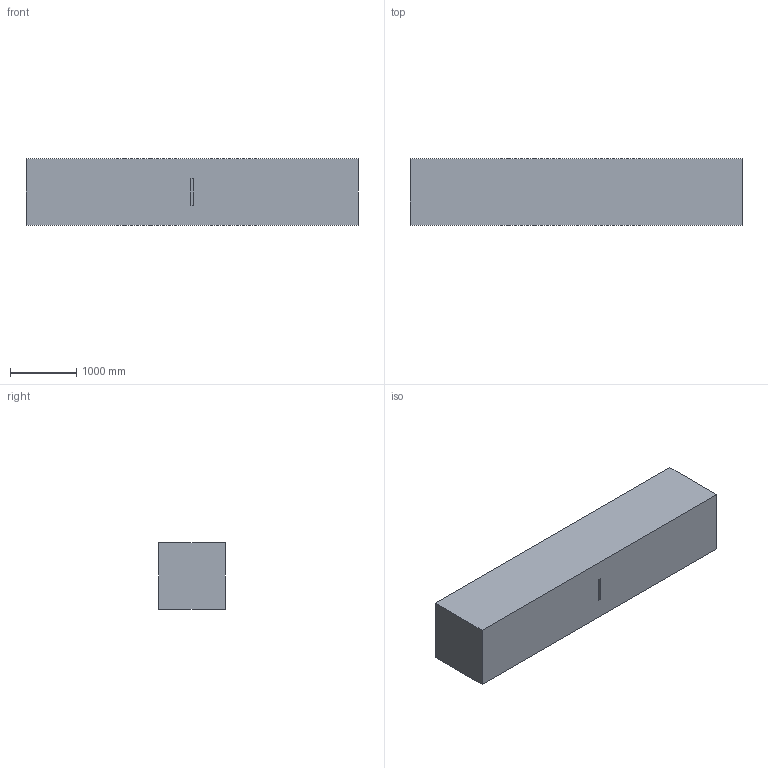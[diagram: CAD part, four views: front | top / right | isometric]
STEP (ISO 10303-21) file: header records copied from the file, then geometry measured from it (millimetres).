
FILE_DESCRIPTION(('ANSA STEP Exchange Structure File'),'2;1');
FILE_NAME('/disk/proj/marcust/ICFD/test_fsi/ansa/fluid_geometry.step','2015-03-06T10:38',('marcust'),('none'),'ANSA 15.2.3','ANSA 15.2.3 AP214','none');
FILE_SCHEMA(('AUTOMOTIVE_DESIGN { 1 0 10303 214 1 1 1 1 }'));
Length unit declared in the file: metre
Products named in the file (1): Untitled
Bounding box: 5000 x 1000 x 1000 mm (x, y, z)
Surface area: 22440000 mm2 (no closed solid volume)
Topology: 0 solids, 1 shells, 11 faces, 24 edges, 16 vertices
Faces by surface type: bspline 11
Entity records: 344 total; most frequent: CARTESIAN_POINT 157, ORIENTED_EDGE 48, B_SPLINE_CURVE_WITH_KNOTS 24, EDGE_CURVE 24, VERTEX_POINT 16, EDGE_LOOP 12, FACE_OUTER_BOUND 11, B_SPLINE_SURFACE_WITH_KNOTS 11
